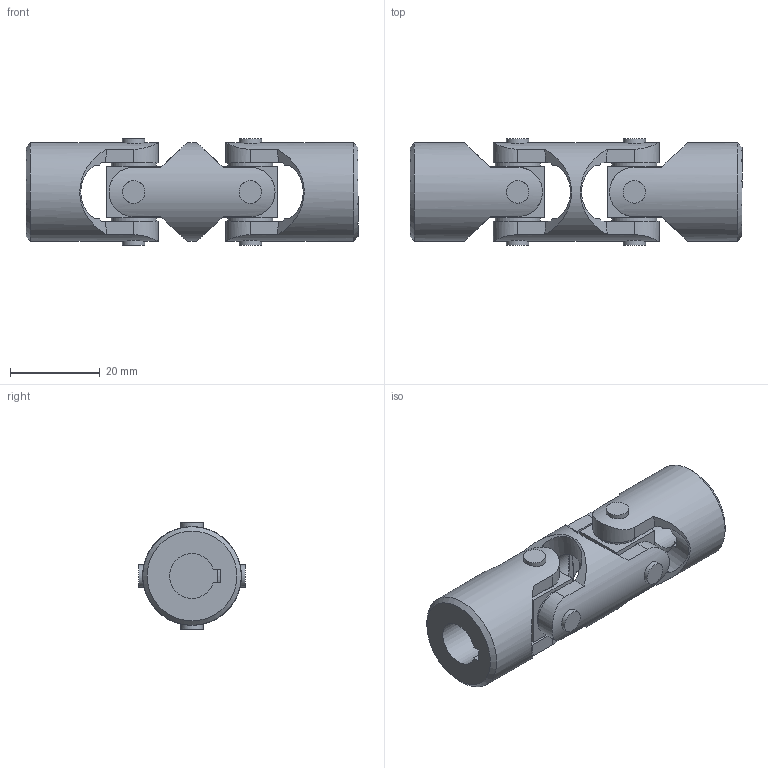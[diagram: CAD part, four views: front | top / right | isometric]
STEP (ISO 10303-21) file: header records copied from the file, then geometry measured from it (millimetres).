
FILE_DESCRIPTION(/* description */ (''),/* implementation_level */ '2;1');
FILE_NAME(/* name */ '\\SRV2016\Societa\Stefano\Disegni 3D\0Catalogo 3D\14Doppi XD\Ø22_03XD_SX0D102C.stp',/* time_stamp */ '2023-05-15T08:30:45+02:00',/* author */ ('acquisti'),/* organization */ (''),/* preprocessor_version */ 'ST-DEVELOPER v15.6',/* originating_system */ 'Autodesk Inventor 2015',/* authorisation */ '');
FILE_SCHEMA (('AUTOMOTIVE_DESIGN { 1 0 10303 214 3 1 1 }'));
Length unit declared in the file: millimetre
Products named in the file (4): 03X MOD; 03X SFE; 03X MOC; Ø22_03XD_SX0D1000
Assembly tree (5 placements, depth 2):
  Ø22_03XD_SX0D1000
    03X MOD
    03X SFE  x2
    03X MOC  x2
Bounding box: 74 x 23.8 x 23.8 mm (x, y, z)
Volume: 18480.6 mm3; surface area: 10181.7 mm2
Topology: 5 solids, 5 shells, 124 faces, 322 edges, 220 vertices
Faces by surface type: plane 68, cylinder 32, cone 20, torus 4
Full cylindrical faces by diameter (mm): 5 x8, 10 x8, 11.5 x1, 22 x3
Entity records: 3084 total; most frequent: CARTESIAN_POINT 1173, ORIENTED_EDGE 386, DIRECTION 353, EDGE_CURVE 193, AXIS2_PLACEMENT_3D 148, VERTEX_POINT 141, EDGE_LOOP 110, FACE_OUTER_BOUND 82
